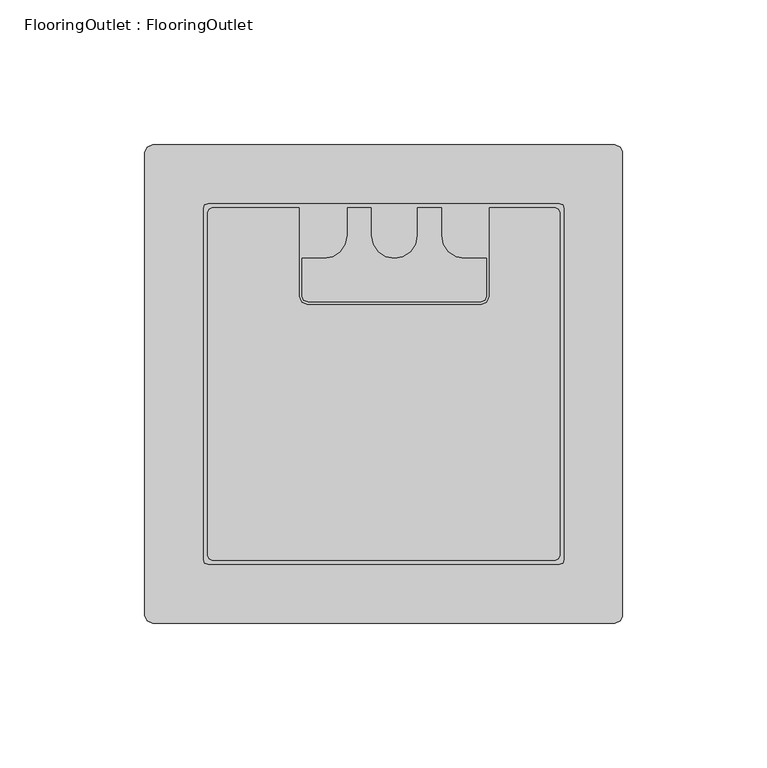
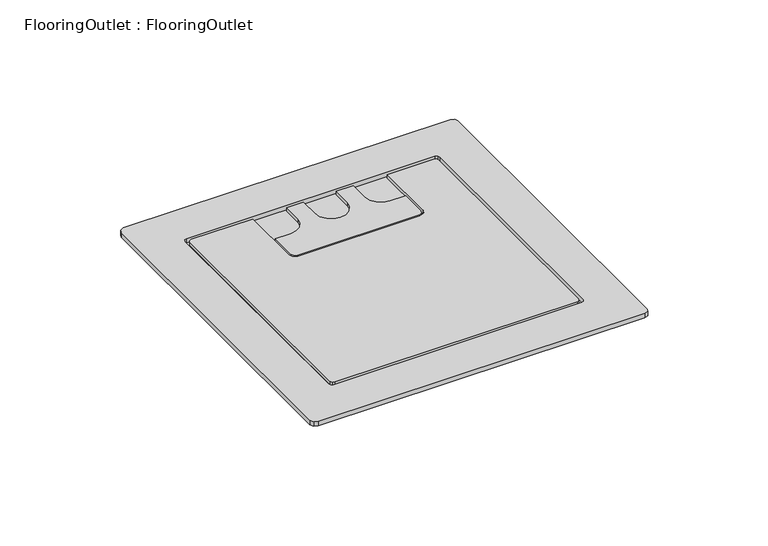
"""IFC4 building model written with IfcOpenShell, lengths in millimetres: switching device geometry, FlooringOutlet : FlooringOutlet."""

from ifc_helpers import new_model, si_unit, origin, origin_with_axes, place, context, project, spatial, polyline, outline, extrude, faceted_brep, source, transform, mapped, element, save


def flooringoutlet_flooringoutlet_d7723352(model_context):
    return source(origin(), model_context, "Body", "SolidModel", [
        faceted_brep([(-79.8617606, 82.5000214, 2.3314206), (-81.7273378, 81.7273045, 2.3314206), (-82.5000025, 79.8619899, 2.3314206), (-82.5000214, -79.8619441, 2.3314206), (-81.7273378, -81.7273045, 2.3314206), (-79.8618184, -82.4999975, 2.3314206), (79.8618642, -82.4999786, 2.3314206), (81.7273378, -81.7273045, 2.3314206), (82.3131037, -80.3131883, 2.3314206), (82.3130846, 80.3132343, 2.3314206), (81.7273378, 81.7273045, 2.3314206), (79.8618064, 82.5000025, 2.3314206), (-60.7167836, 62.2286487, 2.3314206), (60.7168184, 62.2286343, 2.3314206), (61.7858638, 61.7858386, 2.3314206), (62.2286884, 60.7168017, 2.3314206), (62.2287028, -60.7167668, 2.3314206), (61.7858638, -61.7858386, 2.3314206), (60.7168184, -62.2286343, 2.3314206), (-60.7167836, -62.2286487, 2.3314206), (-61.7858638, -61.7858386, 2.3314206), (-62.2287028, -60.7167668, 2.3314206), (-62.2286884, 60.7168017, 2.3314206), (-61.7858638, 61.7858386, 2.3314206), (-79.8617606, 82.5000214, 0.0), (79.8618064, 82.5000025, 0.0), (81.7273378, 81.7273045, 0.0), (82.3130846, 80.3132343, 0.0), (82.3131037, -80.3131883, 0.0), (81.7273378, -81.7273045, 0.0), (79.8618642, -82.4999786, 0.0), (-79.8618184, -82.4999975, 0.0), (-81.7273378, -81.7273045, 0.0), (-82.5000214, -79.8619441, 0.0), (-82.5000025, 79.8619899, 0.0), (-81.7273378, 81.7273045, 0.0), (-60.7167836, 62.2286487, 0.2), (60.7168184, 62.2286343, 0.2), (61.7858638, 61.7858386, 0.2), (62.2286884, 60.7168017, 0.2), (62.2287028, -60.7167668, 0.2), (61.7858638, -61.7858386, 0.2), (60.7168184, -62.2286343, 0.2), (-60.7167836, -62.2286487, 0.2), (-61.7858638, -61.7858386, 0.2), (-62.2287028, -60.7167668, 0.2), (-62.2286884, 60.7168017, 0.2), (-61.7858638, 61.7858386, 0.2)], [[[0, 1, 2, 3, 4, 5, 6, 7, 8, 9, 10, 11], [12, 13, 14, 15, 16, 17, 18, 19, 20, 21, 22, 23]], [[24, 25, 26, 27, 28, 29, 30, 31, 32, 33, 34, 35]], [[1, 0, 24, 35]], [[2, 1, 35, 34]], [[3, 2, 34, 33]], [[4, 3, 33, 32]], [[5, 4, 32, 31]], [[6, 5, 31, 30]], [[7, 6, 30, 29]], [[8, 7, 29, 28]], [[9, 8, 28, 27]], [[10, 9, 27, 26]], [[11, 10, 26, 25]], [[0, 11, 25, 24]], [[36, 37, 13, 12]], [[37, 38, 14, 13]], [[38, 39, 15, 14]], [[39, 40, 16, 15]], [[40, 41, 17, 16]], [[41, 42, 18, 17]], [[42, 43, 19, 18]], [[43, 44, 20, 19]], [[44, 45, 21, 20]], [[45, 46, 22, 21]], [[46, 47, 23, 22]], [[47, 36, 12, 23]], [[36, 47, 46, 45, 44, 43, 42, 41, 40, 39, 38, 37]]]),
        extrude(outline(polyline([(-12.5795234, 60.7484957), (-4.3972065, 60.7485012), (-4.3972081, 51.3587999), (-3.784492, 48.2785034), (-2.039707, 45.6671572), (0.5716438, 43.9223099), (3.6486357, 43.3096027), (6.7256469, 43.9223099), (9.3369985, 45.6671572), (11.0818028, 48.2785034), (11.6945016, 51.3587999), (11.6945029, 60.7485012), (19.8768187, 60.7484957), (19.8768175, 51.3587952), (20.4894948, 48.2784986), (22.2343183, 45.6671524), (24.8456693, 43.9223051), (27.925961, 43.309598), (35.4891325, 43.309598), (35.48913, 30.326283), (34.9034023, 28.9122176), (33.4892559, 28.3264828), (-26.1920873, 28.3264923), (-27.6062107, 28.9122176), (-28.1919384, 30.326283), (-28.1919409, 43.309598), (-20.6287694, 43.309598), (-17.5484776, 43.9223051), (-14.9371266, 45.6671524), (-13.1923032, 48.2784986), (-12.5795221, 51.3593166), (-12.5795234, 60.7484957)])), origin_with_axes(), (0.0, 0.0, 1.0), 2.3314206),
        extrude(outline(polyline([(-59.2725992, 60.7485104), (-29.1918611, 60.7485055), (-29.1918659, 30.3261924), (-28.3132648, 28.2050848), (-26.1921597, 27.3264933), (33.489316, 27.3264837), (35.6104442, 28.2050848), (36.4890453, 30.3261924), (36.4890404, 60.7485067), (59.2725992, 60.7485104), (60.3162432, 60.3162479), (60.7484293, 59.2726469), (60.7484484, -59.2726008), (60.3162432, -60.3162479), (59.2726454, -60.7484913), (-59.2725992, -60.7485104), (-60.3162432, -60.3162479), (-60.7484484, -59.2726008), (-60.7484293, 59.2726469), (-60.3162432, 60.3162479), (-59.2725992, 60.7485104)])), origin_with_axes(), (0.0, 0.0, 1.0), 2.3314206),
    ])


if __name__ == "__main__":
    model = new_model("IFC4")
    model_context = context("Model", 3, world=origin())
    ifc_project = project(units=[si_unit("LENGTHUNIT", "METRE", prefix="MILLI")], contexts=[model_context])
    site = spatial("IfcSite", under=ifc_project)
    building = spatial("IfcBuilding", under=site)
    placement = place(None, origin())
    flooringoutlet_flooringoutlet_shape = flooringoutlet_flooringoutlet_d7723352(model_context)
    element("IfcSwitchingDevice", 1, ObjectType="FlooringOutlet : FlooringOutlet", at=placement, inside=building, context=model_context, shape_type="MappedRepresentation", body=[
        mapped(flooringoutlet_flooringoutlet_shape, transform((0.0, 0.0, 0.0), x_axis=(1.0, 0.0, 0.0), y_axis=(0.0, 1.0, 0.0), z_axis=(0.0, 0.0, 1.0))),
    ])
    save(model, "model.ifc")
